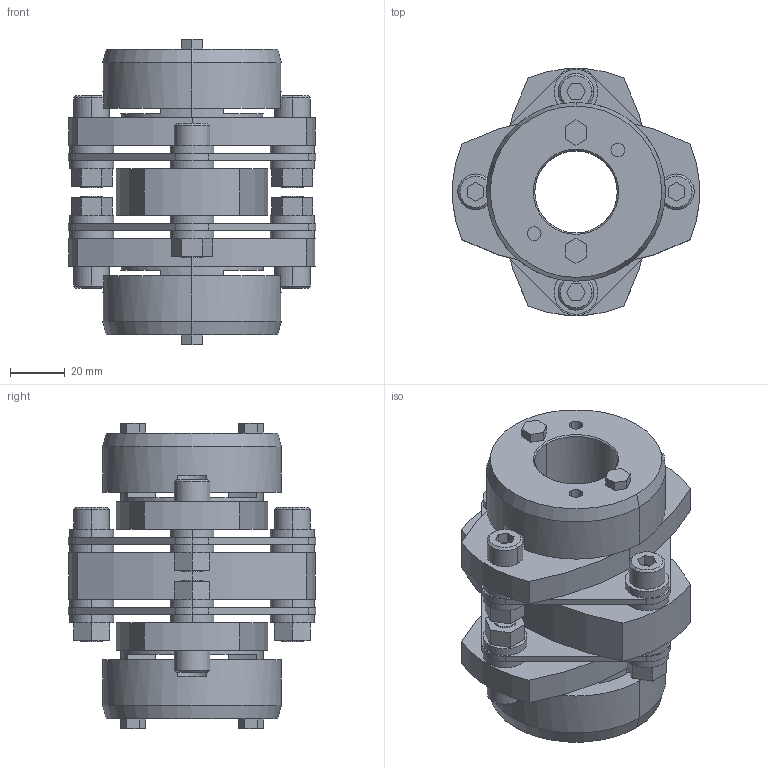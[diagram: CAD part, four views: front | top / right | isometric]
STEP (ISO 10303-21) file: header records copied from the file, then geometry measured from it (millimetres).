
FILE_DESCRIPTION((''),'2;1');
FILE_NAME('LCD-90T7-30×30.stp','2011-09-12T10:00:20',(''),(''),'AutoCAD STEP 2000i','AutoCAD 2000i',', , ');
FILE_SCHEMA(('CONFIG_CONTROL_DESIGN'));
Length unit declared in the file: millimetre
Products named in the file (9): LCD-90T7-30×30; 忣兜1; LC90T7-T030-1; LC90T7-T030; LC90T7-T025-1; LC90T7-T025; LC90T7-T019-1; LC90T7-T019; LCD90-ITA
Assembly tree (8 placements, depth 2):
  LCD-90T7-30×30
    忣兜1
    LC90T7-T030-1
    LC90T7-T030
    LC90T7-T025-1
    LC90T7-T025
    LC90T7-T019-1
    LC90T7-T019
    LCD90-ITA
Bounding box: 90 x 89.94 x 111 mm (x, y, z)
Volume: 277820 mm3; surface area: 75544.1 mm2
Topology: 1 solids, 1 shells, 314 faces, 768 edges, 504 vertices
Faces by surface type: plane 166, cylinder 124, cone 24
Entity records: 9555 total; most frequent: DIRECTION 1710, CARTESIAN_POINT 1595, ORIENTED_EDGE 1536, EDGE_CURVE 768, AXIS2_PLACEMENT_3D 619, VERTEX_POINT 504, VECTOR 472, LINE 472
